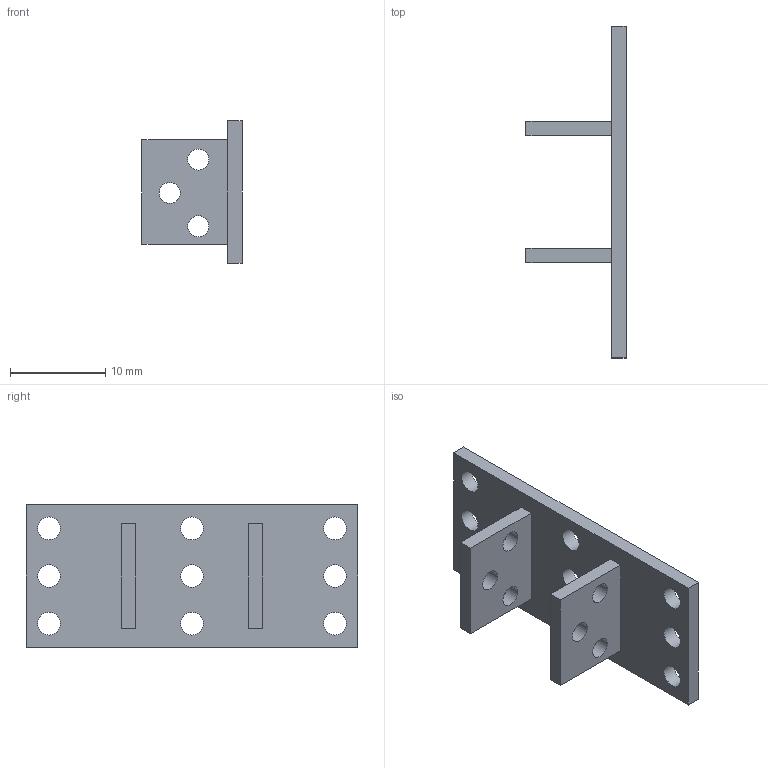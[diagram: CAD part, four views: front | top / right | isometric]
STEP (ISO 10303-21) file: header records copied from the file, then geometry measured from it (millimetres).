
FILE_DESCRIPTION(/* description */ (''),/* implementation_level */ '2;1');
FILE_NAME(/* name */ 'C:/Users/priba/Downloads/GripperBodyLink.step',/* time_stamp */ '2022-04-03T23:59:31+02:00',/* author */ (''),/* organization */ (''),/* preprocessor_version */ 'ST-DEVELOPER v18.1',/* originating_system */ 'Autodesk Translation Framework v10.13.0.1454',/* authorisation */ '');
FILE_SCHEMA (('AUTOMOTIVE_DESIGN { 1 0 10303 214 3 1 1 }'));
Length unit declared in the file: millimetre
Products named in the file (1): GripperBodyLink
Bounding box: 10.5 x 34.8 x 15 mm (x, y, z)
Volume: 984.8 mm3; surface area: 1680.4 mm2
Topology: 1 solids, 1 shells, 31 faces, 81 edges, 54 vertices
Faces by surface type: plane 16, cylinder 15
Full cylindrical faces by diameter (mm): 2.2 x6, 2.398 x9
Entity records: 1058 total; most frequent: DIRECTION 175, CARTESIAN_POINT 167, ORIENTED_EDGE 162, EDGE_CURVE 81, EDGE_LOOP 63, AXIS2_PLACEMENT_3D 62, VERTEX_POINT 54, LINE 51
